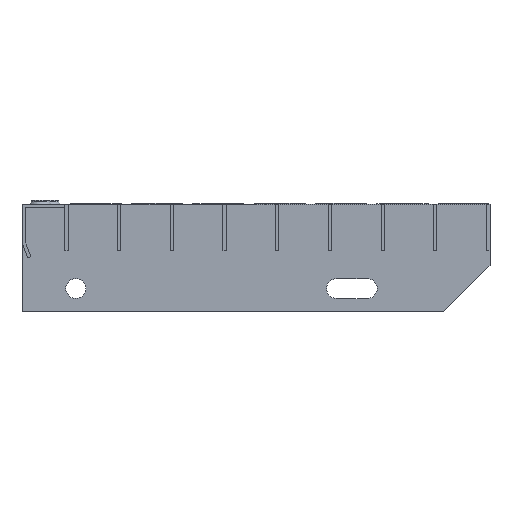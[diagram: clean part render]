
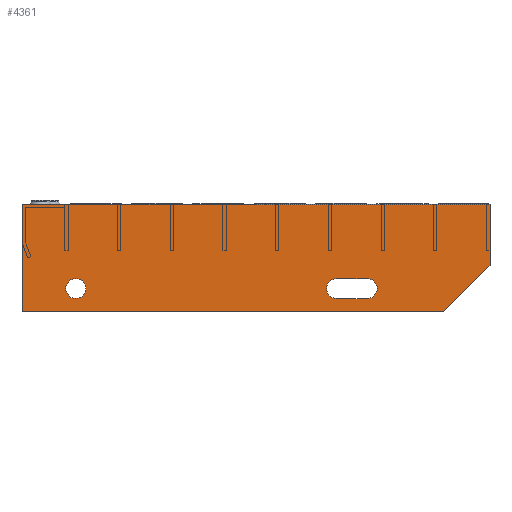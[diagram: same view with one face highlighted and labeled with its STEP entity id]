
A CAD part, front view. The second image highlights one B-rep face of the part: STEP entity #4361.
In plain terms, the highlighted planar face has unit normal (0, -1, 0) as drawn and (0, 0, 1) by its records, which use the part's own axes.
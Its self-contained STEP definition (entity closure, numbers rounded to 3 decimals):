
#371=CIRCLE('',#4714,6.5);
#373=CIRCLE('',#4718,6.5);
#374=CIRCLE('',#4720,6.5);
#685=ORIENTED_EDGE('',*,*,#1740,.F.);
#686=ORIENTED_EDGE('',*,*,#1730,.F.);
#687=ORIENTED_EDGE('',*,*,#1734,.F.);
#688=ORIENTED_EDGE('',*,*,#1737,.F.);
#689=ORIENTED_EDGE('',*,*,#1739,.F.);
#690=ORIENTED_EDGE('',*,*,#1717,.T.);
#691=ORIENTED_EDGE('',*,*,#1721,.T.);
#692=ORIENTED_EDGE('',*,*,#1724,.T.);
#693=ORIENTED_EDGE('',*,*,#1727,.T.);
#694=ORIENTED_EDGE('',*,*,#1743,.T.);
#1717=EDGE_CURVE('',#2252,#2251,#2656,.T.);
#1721=EDGE_CURVE('',#2251,#2254,#2660,.T.);
#1724=EDGE_CURVE('',#2254,#2256,#2663,.T.);
#1727=EDGE_CURVE('',#2256,#2258,#2666,.T.);
#1730=EDGE_CURVE('',#2261,#2262,#2669,.T.);
#1734=EDGE_CURVE('',#2264,#2261,#371,.T.);
#1737=EDGE_CURVE('',#2266,#2264,#2674,.T.);
#1739=EDGE_CURVE('',#2262,#2266,#373,.T.);
#1740=EDGE_CURVE('',#2267,#2267,#374,.T.);
#1743=EDGE_CURVE('',#2258,#2252,#2676,.T.);
#2251=VERTEX_POINT('',#6566);
#2252=VERTEX_POINT('',#6568);
#2254=VERTEX_POINT('',#6574);
#2256=VERTEX_POINT('',#6580);
#2258=VERTEX_POINT('',#6586);
#2261=VERTEX_POINT('',#6593);
#2262=VERTEX_POINT('',#6595);
#2264=VERTEX_POINT('',#6601);
#2266=VERTEX_POINT('',#6607);
#2267=VERTEX_POINT('',#6614);
#2656=LINE('',#6567,#2935);
#2660=LINE('',#6575,#2939);
#2663=LINE('',#6581,#2942);
#2666=LINE('',#6587,#2945);
#2669=LINE('',#6594,#2948);
#2674=LINE('',#6608,#2953);
#2676=LINE('',#6619,#2955);
#2935=VECTOR('',#5237,1000.);
#2939=VECTOR('',#5243,1000.);
#2942=VECTOR('',#5248,1000.);
#2945=VECTOR('',#5253,1000.);
#2948=VECTOR('',#5258,1000.);
#2953=VECTOR('',#5271,1000.);
#2955=VECTOR('',#5287,1000.);
#3223=EDGE_LOOP('',(#685));
#3224=EDGE_LOOP('',(#686,#687,#688,#689));
#3225=EDGE_LOOP('',(#690,#691,#692,#693,#694));
#3764=FACE_BOUND('',#3223,.T.);
#3765=FACE_BOUND('',#3224,.T.);
#3766=FACE_BOUND('',#3225,.T.);
#4301=PLANE('',#4723);
#4361=ADVANCED_FACE('',(#3764,#3765,#3766),#4301,.T.);
#4714=AXIS2_PLACEMENT_3D('',#6602,#5265,#5266);
#4718=AXIS2_PLACEMENT_3D('',#6611,#5276,#5277);
#4720=AXIS2_PLACEMENT_3D('',#6613,#5280,#5281);
#4723=AXIS2_PLACEMENT_3D('',#6620,#5288,#5289);
#5237=DIRECTION('',(-1.,0.,0.));
#5243=DIRECTION('',(0.,-1.,0.));
#5248=DIRECTION('',(1.,0.,0.));
#5253=DIRECTION('',(0.707,0.707,0.));
#5258=DIRECTION('',(-1.,0.,0.));
#5265=DIRECTION('',(0.,0.,1.));
#5266=DIRECTION('',(1.,0.,0.));
#5271=DIRECTION('',(1.,0.,0.));
#5276=DIRECTION('',(0.,0.,1.));
#5277=DIRECTION('',(1.,0.,0.));
#5280=DIRECTION('',(0.,0.,1.));
#5281=DIRECTION('',(1.,0.,0.));
#5287=DIRECTION('',(0.,1.,0.));
#5288=DIRECTION('',(0.,0.,1.));
#5289=DIRECTION('',(1.,0.,0.));
#6566=CARTESIAN_POINT('',(0.,0.,3.));
#6567=CARTESIAN_POINT('',(305.,0.,3.));
#6568=CARTESIAN_POINT('',(305.,0.,3.));
#6574=CARTESIAN_POINT('',(0.,-70.,3.));
#6575=CARTESIAN_POINT('',(0.,0.,3.));
#6580=CARTESIAN_POINT('',(275.,-70.,3.));
#6581=CARTESIAN_POINT('',(0.,-70.,3.));
#6586=CARTESIAN_POINT('',(305.,-40.,3.));
#6587=CARTESIAN_POINT('',(275.,-70.,3.));
#6593=CARTESIAN_POINT('',(225.,-48.5,3.));
#6594=CARTESIAN_POINT('',(225.,-48.5,3.));
#6595=CARTESIAN_POINT('',(205.,-48.5,3.));
#6601=CARTESIAN_POINT('',(225.,-61.5,3.));
#6602=CARTESIAN_POINT('',(225.,-55.,3.));
#6607=CARTESIAN_POINT('',(205.,-61.5,3.));
#6608=CARTESIAN_POINT('',(205.,-61.5,3.));
#6611=CARTESIAN_POINT('',(205.,-55.,3.));
#6613=CARTESIAN_POINT('',(35.,-55.,3.));
#6614=CARTESIAN_POINT('',(41.5,-55.,3.));
#6619=CARTESIAN_POINT('',(305.,-40.,3.));
#6620=CARTESIAN_POINT('',(0.,0.,3.));
